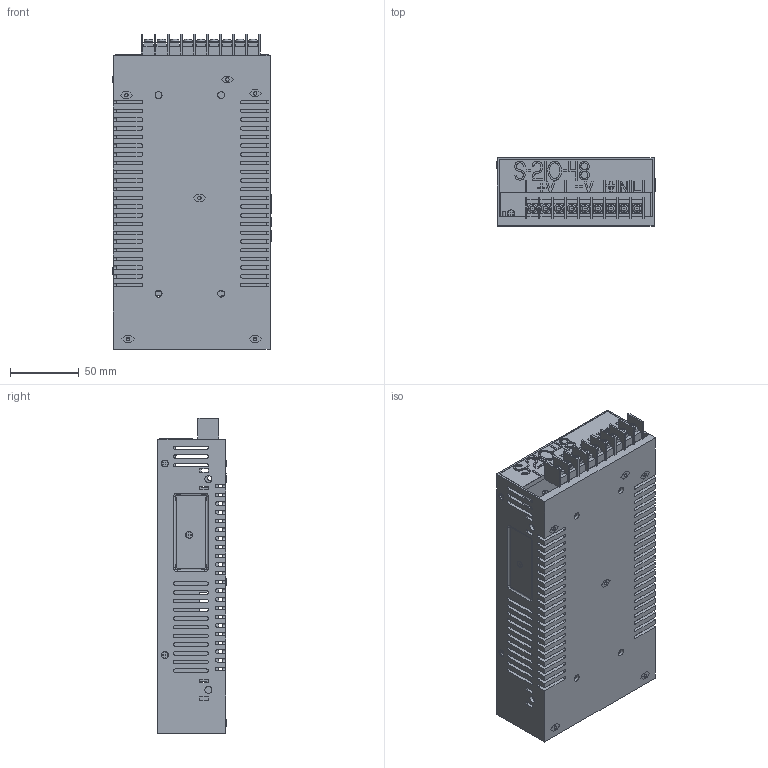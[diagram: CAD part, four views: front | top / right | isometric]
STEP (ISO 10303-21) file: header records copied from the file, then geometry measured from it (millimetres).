
FILE_DESCRIPTION(/* description */ ('Alibre Inc.'),/* implementation_level */ '2;1');
FILE_NAME(/* name */ 'export0',/* time_stamp */ '2008-07-03T09:05:42-07:00',/* author */ (''),/* organization */ (''),/* preprocessor_version */ 'ST-DEVELOPER v10',/* originating_system */ 'Alibre',/* authorisation */ '');
FILE_SCHEMA (('ALIBRE_SCHEMA','CONFIG_CONTROL_DESIGN'));
Length unit declared in the file: centimetre
Products named in the file (6): ID_1
Bounding box: 115.32 x 49.78 x 230.12 mm (x, y, z)
Volume: 199004.6 mm3; surface area: 166776.4 mm2
Topology: 43 solids, 43 shells, 1657 faces, 4861 edges, 3240 vertices
Faces by surface type: plane 1167, cylinder 453, torus 21, bspline 12, extrusion 4
Full cylindrical faces by diameter (mm): 2.54 x7, 3.81 x4, 5.08 x17, 6.35 x9
Entity records: 95851 total; most frequent: CARTESIAN_POINT 17262, ORIENTED_EDGE 9598, DIRECTION 9101, CONSTRAINTPAIRUV 7996, REFERENCEDEPENDENTUV 5220, VECTOR 5077, LINE 4917, EDGE_CURVE 4799
